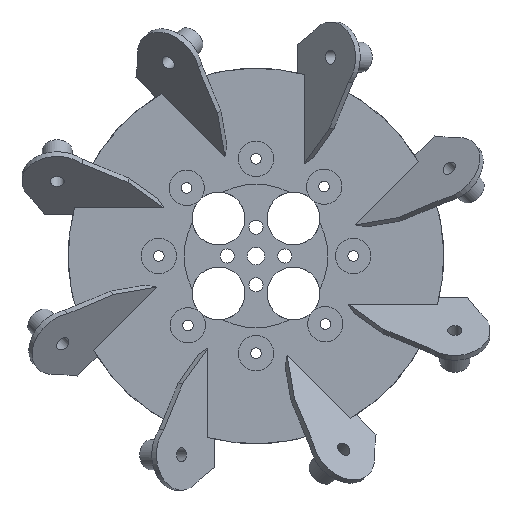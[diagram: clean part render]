
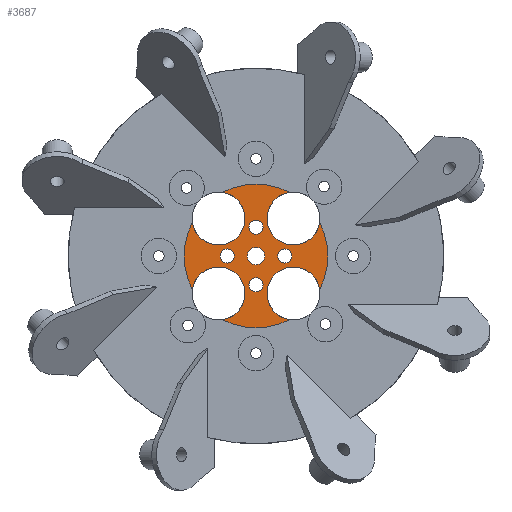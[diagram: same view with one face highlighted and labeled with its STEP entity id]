
A CAD part, front view. The second image highlights one B-rep face of the part: STEP entity #3687.
In plain terms, the highlighted planar face has unit normal (0, -1, 0).
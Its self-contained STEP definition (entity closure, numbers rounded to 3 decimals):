
#47=FACE_BOUND('',#461,.T.);
#48=FACE_BOUND('',#462,.T.);
#49=FACE_BOUND('',#463,.T.);
#50=FACE_BOUND('',#464,.T.);
#51=FACE_BOUND('',#465,.T.);
#102=PLANE('',#3903);
#252=FACE_OUTER_BOUND('',#460,.T.);
#460=EDGE_LOOP('',(#2541,#2542,#2543,#2544,#2545,#2546,#2547,#2548));
#461=EDGE_LOOP('',(#2549));
#462=EDGE_LOOP('',(#2550));
#463=EDGE_LOOP('',(#2551));
#464=EDGE_LOOP('',(#2552));
#465=EDGE_LOOP('',(#2553));
#721=CIRCLE('',#3896,16.279);
#722=CIRCLE('',#3898,16.279);
#725=CIRCLE('',#3902,16.279);
#726=CIRCLE('',#3904,6.);
#727=CIRCLE('',#3905,6.);
#728=CIRCLE('',#3906,6.);
#729=CIRCLE('',#3907,6.);
#730=CIRCLE('',#3908,16.279);
#731=CIRCLE('',#3909,1.6);
#732=CIRCLE('',#3910,1.6);
#733=CIRCLE('',#3911,1.6);
#734=CIRCLE('',#3912,1.6);
#735=CIRCLE('',#3913,2.);
#1621=VERTEX_POINT('',#5394);
#1623=VERTEX_POINT('',#5398);
#1624=VERTEX_POINT('',#5402);
#1626=VERTEX_POINT('',#5405);
#1629=VERTEX_POINT('',#5412);
#1631=VERTEX_POINT('',#5416);
#1632=VERTEX_POINT('',#5420);
#1633=VERTEX_POINT('',#5424);
#1634=VERTEX_POINT('',#5427);
#1635=VERTEX_POINT('',#5429);
#1636=VERTEX_POINT('',#5431);
#1637=VERTEX_POINT('',#5433);
#1638=VERTEX_POINT('',#5435);
#1985=EDGE_CURVE('',#1623,#1621,#721,.T.);
#1987=EDGE_CURVE('',#1624,#1626,#722,.T.);
#1993=EDGE_CURVE('',#1631,#1629,#725,.T.);
#1994=EDGE_CURVE('',#1629,#1632,#726,.T.);
#1995=EDGE_CURVE('',#1626,#1631,#727,.T.);
#1996=EDGE_CURVE('',#1621,#1624,#728,.T.);
#1997=EDGE_CURVE('',#1633,#1623,#729,.T.);
#1998=EDGE_CURVE('',#1632,#1633,#730,.T.);
#1999=EDGE_CURVE('',#1634,#1634,#731,.T.);
#2000=EDGE_CURVE('',#1635,#1635,#732,.T.);
#2001=EDGE_CURVE('',#1636,#1636,#733,.T.);
#2002=EDGE_CURVE('',#1637,#1637,#734,.T.);
#2003=EDGE_CURVE('',#1638,#1638,#735,.T.);
#2541=ORIENTED_EDGE('',*,*,#1994,.F.);
#2542=ORIENTED_EDGE('',*,*,#1993,.F.);
#2543=ORIENTED_EDGE('',*,*,#1995,.F.);
#2544=ORIENTED_EDGE('',*,*,#1987,.F.);
#2545=ORIENTED_EDGE('',*,*,#1996,.F.);
#2546=ORIENTED_EDGE('',*,*,#1985,.F.);
#2547=ORIENTED_EDGE('',*,*,#1997,.F.);
#2548=ORIENTED_EDGE('',*,*,#1998,.F.);
#2549=ORIENTED_EDGE('',*,*,#1999,.F.);
#2550=ORIENTED_EDGE('',*,*,#2000,.F.);
#2551=ORIENTED_EDGE('',*,*,#2001,.F.);
#2552=ORIENTED_EDGE('',*,*,#2002,.F.);
#2553=ORIENTED_EDGE('',*,*,#2003,.F.);
#3687=ADVANCED_FACE('',(#252,#47,#48,#49,#50,#51),#102,.F.);
#3896=AXIS2_PLACEMENT_3D('',#5400,#4272,#4273);
#3898=AXIS2_PLACEMENT_3D('',#5406,#4277,#4278);
#3902=AXIS2_PLACEMENT_3D('',#5418,#4288,#4289);
#3903=AXIS2_PLACEMENT_3D('',#5419,#4290,#4291);
#3904=AXIS2_PLACEMENT_3D('',#5421,#4292,#4293);
#3905=AXIS2_PLACEMENT_3D('',#5422,#4294,#4295);
#3906=AXIS2_PLACEMENT_3D('',#5423,#4296,#4297);
#3907=AXIS2_PLACEMENT_3D('',#5425,#4298,#4299);
#3908=AXIS2_PLACEMENT_3D('',#5426,#4300,#4301);
#3909=AXIS2_PLACEMENT_3D('',#5428,#4302,#4303);
#3910=AXIS2_PLACEMENT_3D('',#5430,#4304,#4305);
#3911=AXIS2_PLACEMENT_3D('',#5432,#4306,#4307);
#3912=AXIS2_PLACEMENT_3D('',#5434,#4308,#4309);
#3913=AXIS2_PLACEMENT_3D('',#5436,#4310,#4311);
#4272=DIRECTION('center_axis',(0.,1.,0.));
#4273=DIRECTION('ref_axis',(1.,0.,0.));
#4277=DIRECTION('center_axis',(0.,1.,0.));
#4278=DIRECTION('ref_axis',(1.,0.,0.));
#4288=DIRECTION('center_axis',(0.,1.,0.));
#4289=DIRECTION('ref_axis',(1.,0.,0.));
#4290=DIRECTION('center_axis',(0.,1.,0.));
#4291=DIRECTION('ref_axis',(1.,0.,0.));
#4292=DIRECTION('center_axis',(0.,-1.,0.));
#4293=DIRECTION('ref_axis',(-0.707,0.,-0.707));
#4294=DIRECTION('center_axis',(0.,-1.,0.));
#4295=DIRECTION('ref_axis',(0.707,0.,-0.707));
#4296=DIRECTION('center_axis',(0.,-1.,0.));
#4297=DIRECTION('ref_axis',(0.707,0.,0.707));
#4298=DIRECTION('center_axis',(0.,-1.,0.));
#4299=DIRECTION('ref_axis',(-0.707,0.,0.707));
#4300=DIRECTION('center_axis',(0.,1.,0.));
#4301=DIRECTION('ref_axis',(1.,0.,0.));
#4302=DIRECTION('center_axis',(0.,-1.,0.));
#4303=DIRECTION('ref_axis',(-1.,0.,0.));
#4304=DIRECTION('center_axis',(0.,-1.,0.));
#4305=DIRECTION('ref_axis',(0.,0.,
-1.));
#4306=DIRECTION('center_axis',(0.,-1.,0.));
#4307=DIRECTION('ref_axis',(0.,0.,1.));
#4308=DIRECTION('center_axis',(0.,-1.,0.));
#4309=DIRECTION('ref_axis',(1.,0.,0.));
#4310=DIRECTION('center_axis',(0.,-1.,0.));
#4311=DIRECTION('ref_axis',(0.,0.,1.));
#5394=CARTESIAN_POINT('',(-7.565,-28.,30.586));
#5398=CARTESIAN_POINT('',(7.565,-28.,30.586));
#5400=CARTESIAN_POINT('Origin',(0.,-28.,45.));
#5402=CARTESIAN_POINT('',(-14.414,-28.,37.435));
#5405=CARTESIAN_POINT('',(-14.414,-28.,52.565));
#5406=CARTESIAN_POINT('Origin',(0.,-28.,45.));
#5412=CARTESIAN_POINT('',(7.565,-28.,59.414));
#5416=CARTESIAN_POINT('',(-7.565,-28.,59.414));
#5418=CARTESIAN_POINT('Origin',(0.,-28.,45.));
#5419=CARTESIAN_POINT('Origin',(0.,-28.,45.));
#5420=CARTESIAN_POINT('',(14.414,-28.,52.565));
#5421=CARTESIAN_POINT('Origin',(8.485,-28.,53.485));
#5422=CARTESIAN_POINT('Origin',(-8.485,-28.,53.485));
#5423=CARTESIAN_POINT('Origin',(-8.485,-28.,36.515));
#5424=CARTESIAN_POINT('',(14.414,-28.,37.435));
#5425=CARTESIAN_POINT('Origin',(8.485,-28.,36.515));
#5426=CARTESIAN_POINT('Origin',(0.,-28.,45.));
#5427=CARTESIAN_POINT('',(1.6,-28.,51.5));
#5428=CARTESIAN_POINT('Origin',(0.,-28.,51.5));
#5429=CARTESIAN_POINT('',(-6.5,-28.,46.6));
#5430=CARTESIAN_POINT('Origin',(-6.5,-28.,45.));
#5431=CARTESIAN_POINT('',(6.5,-28.,43.4));
#5432=CARTESIAN_POINT('Origin',(6.5,-28.,45.));
#5433=CARTESIAN_POINT('',(-1.6,-28.,38.5));
#5434=CARTESIAN_POINT('Origin',(0.,-28.,38.5));
#5435=CARTESIAN_POINT('',(0.,-28.,43.));
#5436=CARTESIAN_POINT('Origin',(0.,-28.,45.));
